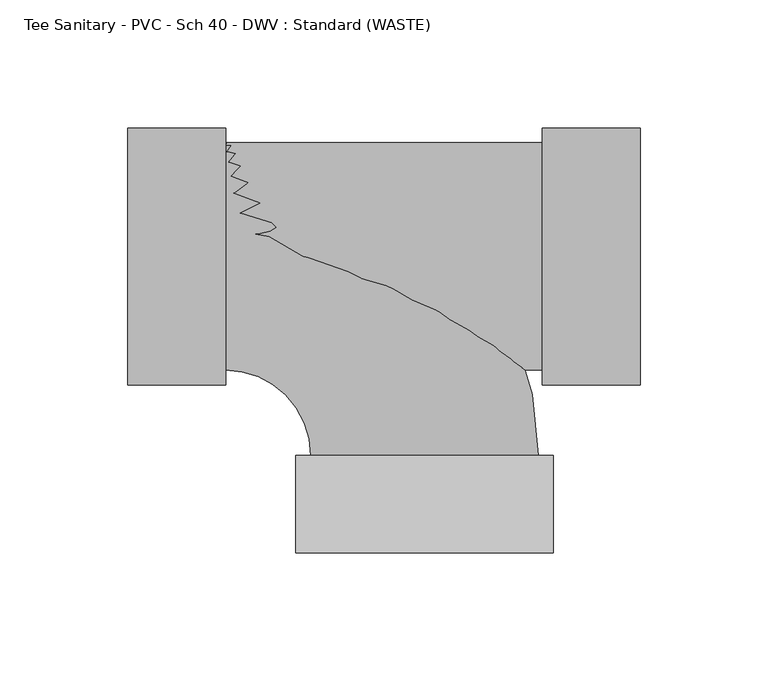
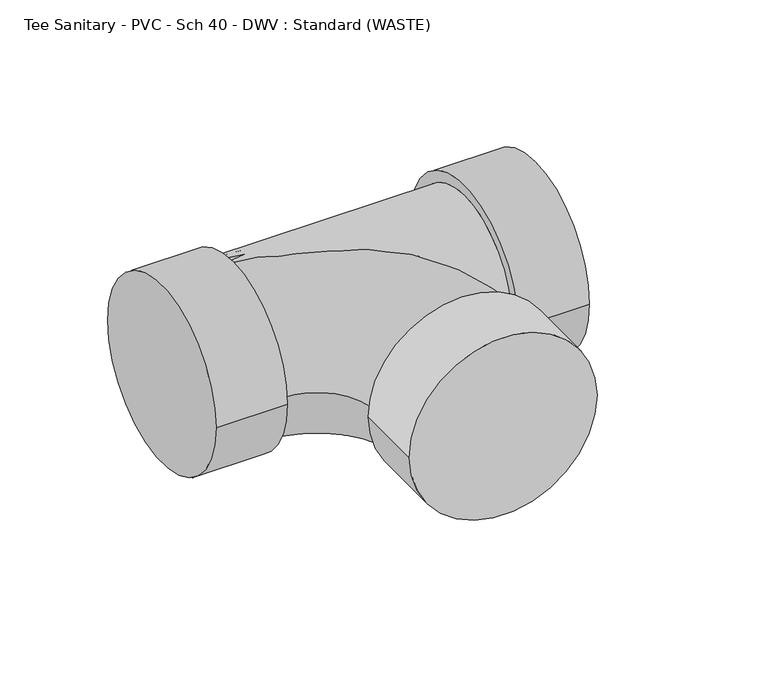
"""IFC4 building model written with IfcOpenShell, lengths in millimetres: pipe fitting geometry, Tee Sanitary - PVC - Sch 40 - DWV : Standard (WASTE)."""

from ifc_helpers import new_model, si_unit, point, frame, origin, place, context, project, spatial, circle_curve, ellipse_curve, trimmed, source, transform, mapped, element, save
from ifc_brep_helpers import plane_surface, cylinder_surface, revolved_surface, advanced_brep


def tee_sanitary_pvc_sch_40_dwv_standard_waste_a06ef647(model_context):
    return source(origin(), model_context, "Body", "AdvancedBrep", [
        advanced_brep(
        [(-77.8002, -44.45, 0.0), (-77.8002, 44.45, 0.0), (-44.45, -77.8002, 0.0), (44.45, -77.8002, 0.0), (50.2666, -115.9002, 0.0), (-50.2666, -115.9002, 0.0), (50.2666, -77.8002, 0.0), (-50.2666, -77.8002, 0.0)],
        [
            (0, 1, circle_curve(frame((-77.8002, 0.0, 0.0), z_axis=(-1.0, 0.0, 0.0), x_axis=(0.0, 1.0, 0.0)), 44.45)),
            (1, 0, circle_curve(frame((-77.8002, 0.0, 0.0), z_axis=(-1.0, 0.0, 0.0), x_axis=(0.0, 1.0, 0.0)), 44.45)),
            (0, 2, circle_curve(frame((-77.8002, -77.8002, 0.0), z_axis=(0.0, 0.0, -1.0), x_axis=(0.0, 1.0, 0.0)), 33.3502)),
            (2, 3, circle_curve(frame((0.0, -77.8002, 0.0), z_axis=(0.0, 1.0, 0.0), x_axis=(1.0, 0.0, 0.0)), 44.45)),
            (3, 1, circle_curve(frame((-77.8002, -77.8002, 0.0), z_axis=(0.0, 0.0, 1.0), x_axis=(0.0, 1.0, 0.0)), 122.2502)),
            (3, 2, circle_curve(frame((0.0, -77.8002, 0.0), z_axis=(0.0, 1.0, 0.0), x_axis=(1.0, 0.0, 0.0)), 44.45)),
            (4, 5, circle_curve(frame((0.0, -115.9002, 0.0), z_axis=(0.0, -1.0, 0.0), x_axis=(-1.0, 0.0, 0.0)), 50.2666)),
            (5, 4, circle_curve(frame((0.0, -115.9002, 0.0), z_axis=(0.0, -1.0, 0.0), x_axis=(-1.0, 0.0, 0.0)), 50.2666)),
            (6, 7, circle_curve(frame((0.0, -77.8002, 0.0), z_axis=(0.0, 1.0, 0.0), x_axis=(-1.0, 0.0, 0.0)), 50.2666)),
            (7, 6, circle_curve(frame((0.0, -77.8002, 0.0), z_axis=(0.0, 1.0, 0.0), x_axis=(-1.0, 0.0, 0.0)), 50.2666)),
            (4, 6),
            (7, 5),
        ],
        [
            plane_surface(frame((-77.8002, 0.0, 0.0), z_axis=(-1.0, 0.0, 0.0), x_axis=(0.0, 0.0, 1.0))),
            revolved_surface(trimmed(ellipse_curve(frame((-77.8002, 0.0, 0.0), z_axis=(-1.0, 0.0, 0.0), x_axis=(0.0, 1.0, 0.0)), 44.45, 44.45), [point((-77.8002, -44.45, 0.0))], [point((-77.8002, 44.45, 0.0))], True, "CARTESIAN"), (-77.8002, -77.8002, 0.0), (0.0, 0.0, -1.0)),
            revolved_surface(trimmed(ellipse_curve(frame((-77.8002, 0.0, 0.0), z_axis=(-1.0, 0.0, 0.0), x_axis=(0.0, 1.0, 0.0)), 44.45, 44.45), [point((-77.8002, 44.45, 0.0))], [point((-77.8002, -44.45, 0.0))], True, "CARTESIAN"), (-77.8002, -77.8002, 0.0), (0.0, 0.0, -1.0)),
            plane_surface(frame((0.0, -115.9002, 0.0), z_axis=(0.0, -1.0, 0.0), x_axis=(0.0, 0.0, 1.0))),
            plane_surface(frame((0.0, -77.8002, 0.0), z_axis=(0.0, 1.0, 0.0), x_axis=(0.0, 0.0, 1.0))),
            cylinder_surface(frame((0.0, -115.9002, 0.0), z_axis=(0.0, -1.0, 0.0), x_axis=(-1.0, 0.0, 0.0)), 50.2666),
        ],
        [
            (0, [[1, 2]]),
            (1, [[-1, 3, 4, 5]]),
            (2, [[-2, -5, 6, -3]]),
            (3, [[7, 8]]),
            (4, [[9, 10], [-4, -6]]),
            (5, [[-7, 11, -10, 12]]),
            (5, [[-8, -12, -9, -11]]),
        ],
    ),
        advanced_brep(
        [(50.2666, -115.9002, 0.0), (-50.2666, -115.9002, 0.0), (-77.8002, -44.45, 0.0), (-77.8002, 44.45, 0.0), (-44.45, -77.8002, 0.0), (44.45, -77.8002, 0.0), (50.2666, -77.8002, 0.0), (-50.2666, -77.8002, 0.0)],
        [
            (0, 1, circle_curve(frame((0.0, -115.9002, 0.0), z_axis=(0.0, -1.0, 0.0), x_axis=(-1.0, 0.0, 0.0)), 50.2666)),
            (1, 0, circle_curve(frame((0.0, -115.9002, 0.0), z_axis=(0.0, -1.0, 0.0), x_axis=(-1.0, 0.0, 0.0)), 50.2666)),
            (2, 3, circle_curve(frame((-77.8002, 0.0, 0.0), z_axis=(-1.0, 0.0, 0.0), x_axis=(0.0, 1.0, 0.0)), 44.45)),
            (3, 2, circle_curve(frame((-77.8002, 0.0, 0.0), z_axis=(-1.0, 0.0, 0.0), x_axis=(0.0, 1.0, 0.0)), 44.45)),
            (2, 4, circle_curve(frame((-77.8002, -77.8002, 0.0), z_axis=(0.0, 0.0, -1.0), x_axis=(0.0, 1.0, 0.0)), 33.3502)),
            (4, 5, circle_curve(frame((0.0, -77.8002, 0.0), z_axis=(0.0, 1.0, 0.0), x_axis=(1.0, 0.0, 0.0)), 44.45)),
            (5, 3, circle_curve(frame((-77.8002, -77.8002, 0.0), z_axis=(0.0, 0.0, 1.0), x_axis=(0.0, 1.0, 0.0)), 122.2502)),
            (5, 4, circle_curve(frame((0.0, -77.8002, 0.0), z_axis=(0.0, 1.0, 0.0), x_axis=(1.0, 0.0, 0.0)), 44.45)),
            (6, 7, circle_curve(frame((0.0, -77.8002, 0.0), z_axis=(0.0, 1.0, 0.0), x_axis=(-1.0, 0.0, 0.0)), 50.2666)),
            (7, 6, circle_curve(frame((0.0, -77.8002, 0.0), z_axis=(0.0, 1.0, 0.0), x_axis=(-1.0, 0.0, 0.0)), 50.2666)),
            (0, 6),
            (7, 1),
        ],
        [
            plane_surface(frame((0.0, -115.9002, 0.0), z_axis=(0.0, -1.0, 0.0), x_axis=(0.0, 0.0, 1.0))),
            plane_surface(frame((-77.8002, 0.0, 0.0), z_axis=(-1.0, 0.0, 0.0), x_axis=(0.0, 0.0, 1.0))),
            revolved_surface(trimmed(ellipse_curve(frame((-77.8002, 0.0, 0.0), z_axis=(-1.0, 0.0, 0.0), x_axis=(0.0, 1.0, 0.0)), 44.45, 44.45), [point((-77.8002, -44.45, 0.0))], [point((-77.8002, 44.45, 0.0))], True, "CARTESIAN"), (-77.8002, -77.8002, 0.0), (0.0, 0.0, -1.0)),
            revolved_surface(trimmed(ellipse_curve(frame((-77.8002, 0.0, 0.0), z_axis=(-1.0, 0.0, 0.0), x_axis=(0.0, 1.0, 0.0)), 44.45, 44.45), [point((-77.8002, 44.45, 0.0))], [point((-77.8002, -44.45, 0.0))], True, "CARTESIAN"), (-77.8002, -77.8002, 0.0), (0.0, 0.0, -1.0)),
            plane_surface(frame((0.0, -77.8002, 0.0), z_axis=(0.0, 1.0, 0.0), x_axis=(0.0, 0.0, 1.0))),
            cylinder_surface(frame((0.0, -115.9002, 0.0), z_axis=(0.0, -1.0, 0.0), x_axis=(-1.0, 0.0, 0.0)), 50.2666),
        ],
        [
            (0, [[1, 2]]),
            (1, [[3, 4]]),
            (2, [[-3, 5, 6, 7]]),
            (3, [[-4, -7, 8, -5]]),
            (4, [[9, 10], [-6, -8]]),
            (5, [[-1, 11, -10, 12]]),
            (5, [[-2, -12, -9, -11]]),
        ],
    ),
        advanced_brep(
        [(-77.8002, -44.45, 0.0), (46.0248, -44.45, 0.0), (46.0248, 44.45, 0.0), (-77.8002, 44.45, 0.0), (46.0248, -50.2666, 0.0), (46.0248, 50.2666, 0.0), (84.1248, -50.2666, 0.0), (84.1248, 50.2666, 0.0), (-115.9002, -50.2666, 0.0), (-115.9002, 50.2666, 0.0), (-77.8002, -50.2666, 0.0), (-77.8002, 50.2666, 0.0)],
        [
            (0, 1),
            (1, 2, circle_curve(frame((46.0248, 0.0, 0.0), z_axis=(-1.0, 0.0, 0.0), x_axis=(0.0, 1.0, 0.0)), 44.45)),
            (2, 3),
            (3, 0, circle_curve(frame((-77.8002, 0.0, 0.0), z_axis=(1.0, 0.0, 0.0), x_axis=(0.0, 1.0, 0.0)), 44.45)),
            (0, 3, circle_curve(frame((-77.8002, 0.0, 0.0), z_axis=(1.0, 0.0, 0.0), x_axis=(0.0, 1.0, 0.0)), 44.45)),
            (2, 1, circle_curve(frame((46.0248, 0.0, 0.0), z_axis=(-1.0, 0.0, 0.0), x_axis=(0.0, 1.0, 0.0)), 44.45)),
            (4, 5, circle_curve(frame((46.0248, 0.0, 0.0), z_axis=(-1.0, 0.0, 0.0), x_axis=(0.0, 1.0, 0.0)), 50.2666)),
            (5, 4, circle_curve(frame((46.0248, 0.0, 0.0), z_axis=(-1.0, 0.0, 0.0), x_axis=(0.0, 1.0, 0.0)), 50.2666)),
            (6, 7, circle_curve(frame((84.1248, 0.0, 0.0), z_axis=(1.0, 0.0, 0.0), x_axis=(0.0, 1.0, 0.0)), 50.2666)),
            (7, 6, circle_curve(frame((84.1248, 0.0, 0.0), z_axis=(1.0, 0.0, 0.0), x_axis=(0.0, 1.0, 0.0)), 50.2666)),
            (4, 6),
            (7, 5),
            (8, 9, circle_curve(frame((-115.9002, 0.0, 0.0), z_axis=(-1.0, 0.0, 0.0), x_axis=(0.0, 1.0, 0.0)), 50.2666)),
            (9, 8, circle_curve(frame((-115.9002, 0.0, 0.0), z_axis=(-1.0, 0.0, 0.0), x_axis=(0.0, 1.0, 0.0)), 50.2666)),
            (10, 11, circle_curve(frame((-77.8002, 0.0, 0.0), z_axis=(1.0, 0.0, 0.0), x_axis=(0.0, 1.0, 0.0)), 50.2666)),
            (11, 10, circle_curve(frame((-77.8002, 0.0, 0.0), z_axis=(1.0, 0.0, 0.0), x_axis=(0.0, 1.0, 0.0)), 50.2666)),
            (8, 10),
            (11, 9),
        ],
        [
            cylinder_surface(frame((-77.8002, 0.0, 0.0), z_axis=(-1.0, 0.0, 0.0), x_axis=(0.0, 1.0, 0.0)), 44.45),
            plane_surface(frame((46.0248, 0.0, 0.0), z_axis=(-1.0, 0.0, 0.0), x_axis=(0.0, 0.0, 1.0))),
            plane_surface(frame((84.1248, 0.0, 0.0), z_axis=(1.0, 0.0, 0.0), x_axis=(0.0, 0.0, 1.0))),
            cylinder_surface(frame((46.0248, 0.0, 0.0), z_axis=(-1.0, 0.0, 0.0), x_axis=(0.0, 1.0, 0.0)), 50.2666),
            plane_surface(frame((-115.9002, 0.0, 0.0), z_axis=(-1.0, 0.0, 0.0), x_axis=(0.0, 0.0, 1.0))),
            plane_surface(frame((-77.8002, 0.0, 0.0), z_axis=(1.0, 0.0, 0.0), x_axis=(0.0, 0.0, 1.0))),
            cylinder_surface(frame((-115.9002, 0.0, 0.0), z_axis=(-1.0, 0.0, 0.0), x_axis=(0.0, 1.0, 0.0)), 50.2666),
        ],
        [
            (0, [[1, 2, 3, 4]]),
            (0, [[-1, 5, -3, 6]]),
            (1, [[7, 8], [-2, -6]]),
            (2, [[9, 10]]),
            (3, [[-7, 11, -10, 12]]),
            (3, [[-8, -12, -9, -11]]),
            (4, [[13, 14]]),
            (5, [[15, 16], [-4, -5]]),
            (6, [[-13, 17, -16, 18]]),
            (6, [[-14, -18, -15, -17]]),
        ],
    ),
        advanced_brep(
        [(-115.9002, -50.2666, 0.0), (-115.9002, 50.2666, 0.0), (-77.8002, -50.2666, 0.0), (-77.8002, 50.2666, 0.0), (-77.8002, -44.45, 0.0), (-77.8002, 44.45, 0.0), (46.0248, -44.45, 0.0), (46.0248, 44.45, 0.0), (84.1248, 50.2666, 0.0), (84.1248, -50.2666, 0.0), (46.0248, 50.2666, 0.0), (46.0248, -50.2666, 0.0)],
        [
            (0, 1, circle_curve(frame((-115.9002, 0.0, 0.0), z_axis=(-1.0, 0.0, 0.0), x_axis=(0.0, 1.0, 0.0)), 50.2666)),
            (1, 0, circle_curve(frame((-115.9002, 0.0, 0.0), z_axis=(-1.0, 0.0, 0.0), x_axis=(0.0, 1.0, 0.0)), 50.2666)),
            (2, 3, circle_curve(frame((-77.8002, 0.0, 0.0), z_axis=(1.0, 0.0, 0.0), x_axis=(0.0, 1.0, 0.0)), 50.2666)),
            (3, 2, circle_curve(frame((-77.8002, 0.0, 0.0), z_axis=(1.0, 0.0, 0.0), x_axis=(0.0, 1.0, 0.0)), 50.2666)),
            (4, 5, circle_curve(frame((-77.8002, 0.0, 0.0), z_axis=(-1.0, 0.0, 0.0), x_axis=(0.0, 1.0, 0.0)), 44.45)),
            (5, 4, circle_curve(frame((-77.8002, 0.0, 0.0), z_axis=(-1.0, 0.0, 0.0), x_axis=(0.0, 1.0, 0.0)), 44.45)),
            (0, 2),
            (3, 1),
            (4, 6),
            (6, 7, circle_curve(frame((46.0248, 0.0, 0.0), z_axis=(-1.0, 0.0, 0.0), x_axis=(0.0, 1.0, 0.0)), 44.45)),
            (7, 5),
            (7, 6, circle_curve(frame((46.0248, 0.0, 0.0), z_axis=(-1.0, 0.0, 0.0), x_axis=(0.0, 1.0, 0.0)), 44.45)),
            (8, 9, circle_curve(frame((84.1248, 0.0, 0.0), z_axis=(1.0, 0.0, 0.0), x_axis=(0.0, -1.0, 0.0)), 50.2666)),
            (9, 8, circle_curve(frame((84.1248, 0.0, 0.0), z_axis=(1.0, 0.0, 0.0), x_axis=(0.0, -1.0, 0.0)), 50.2666)),
            (10, 11, circle_curve(frame((46.0248, 0.0, 0.0), z_axis=(-1.0, 0.0, 0.0), x_axis=(0.0, -1.0, 0.0)), 50.2666)),
            (11, 10, circle_curve(frame((46.0248, 0.0, 0.0), z_axis=(-1.0, 0.0, 0.0), x_axis=(0.0, -1.0, 0.0)), 50.2666)),
            (8, 10),
            (11, 9),
        ],
        [
            plane_surface(frame((-115.9002, 0.0, 0.0), z_axis=(-1.0, 0.0, 0.0), x_axis=(0.0, 0.0, 1.0))),
            plane_surface(frame((-77.8002, 0.0, 0.0), z_axis=(1.0, 0.0, 0.0), x_axis=(0.0, 0.0, 1.0))),
            cylinder_surface(frame((-115.9002, 0.0, 0.0), z_axis=(-1.0, 0.0, 0.0), x_axis=(0.0, 1.0, 0.0)), 50.2666),
            cylinder_surface(frame((-77.8002, 0.0, 0.0), z_axis=(-1.0, 0.0, 0.0), x_axis=(0.0, 1.0, 0.0)), 44.45),
            plane_surface(frame((84.1248, 0.0, 0.0), z_axis=(1.0, 0.0, 0.0), x_axis=(0.0, 0.0, 1.0))),
            plane_surface(frame((46.0248, 0.0, 0.0), z_axis=(-1.0, 0.0, 0.0), x_axis=(0.0, 0.0, 1.0))),
            cylinder_surface(frame((84.1248, 0.0, 0.0), z_axis=(1.0, 0.0, 0.0), x_axis=(0.0, -1.0, 0.0)), 50.2666),
        ],
        [
            (0, [[1, 2]]),
            (1, [[3, 4], [5, 6]]),
            (2, [[-1, 7, -4, 8]]),
            (2, [[-2, -8, -3, -7]]),
            (3, [[9, 10, 11, -5]]),
            (3, [[-9, -6, -11, 12]]),
            (4, [[13, 14]]),
            (5, [[15, 16], [-10, -12]]),
            (6, [[-13, 17, -16, 18]]),
            (6, [[-14, -18, -15, -17]]),
        ],
    ),
    ])


if __name__ == "__main__":
    model = new_model("IFC4")
    model_context = context("Model", 3, world=origin())
    ifc_project = project(units=[si_unit("LENGTHUNIT", "METRE", prefix="MILLI")], contexts=[model_context])
    site = spatial("IfcSite", under=ifc_project)
    building = spatial("IfcBuilding", under=site)
    placement = place(None, origin())
    tee_sanitary_pvc_sch_40_dwv_standard_waste_shape = tee_sanitary_pvc_sch_40_dwv_standard_waste_a06ef647(model_context)
    element("IfcPipeFitting", 1, ObjectType="Tee Sanitary - PVC - Sch 40 - DWV : Standard (WASTE)", at=placement, inside=building, context=model_context, shape_type="MappedRepresentation", body=[
        mapped(tee_sanitary_pvc_sch_40_dwv_standard_waste_shape, transform((0.0, 0.0, 0.0), x_axis=(1.0, 0.0, 0.0), y_axis=(0.0, 1.0, 0.0), z_axis=(0.0, 0.0, 1.0))),
    ])
    save(model, "model.ifc")
